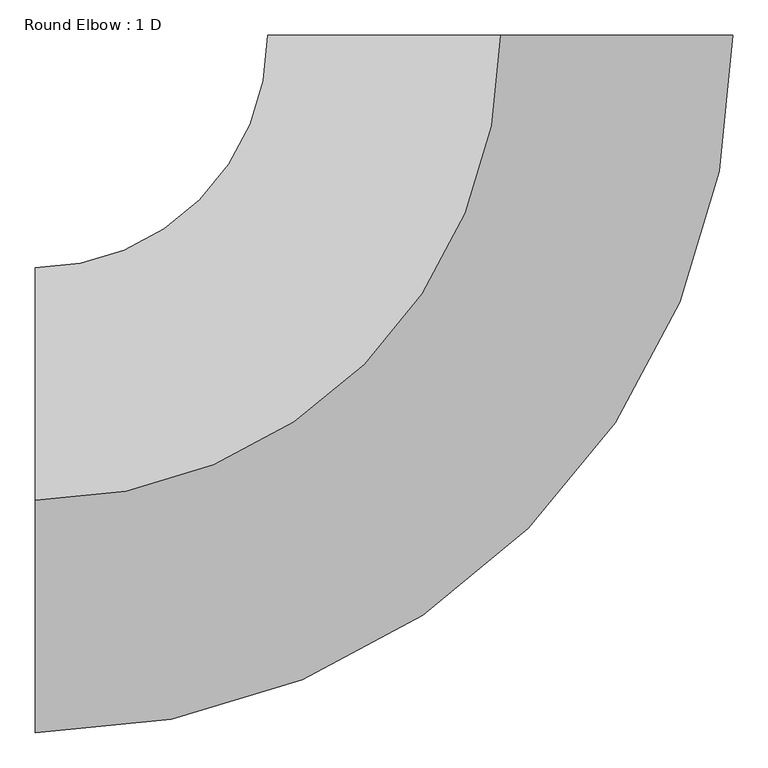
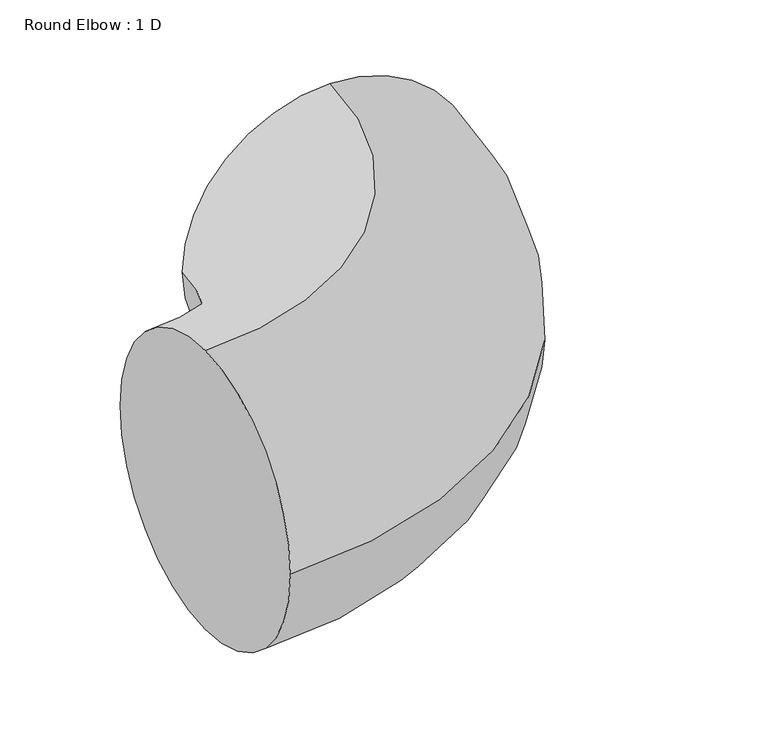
"""IFC4 building model written with IfcOpenShell, lengths in millimetres: duct fitting geometry, Round Elbow : 1 D."""

from ifc_helpers import new_model, si_unit, point, frame, origin, place, context, project, spatial, circle_curve, ellipse_curve, trimmed, source, transform, mapped, element, save
from ifc_brep_helpers import plane_surface, revolved_surface, advanced_brep


def round_elbow_1_d_a92ac68b(model_context):
    return source(origin(), model_context, "Body", "AdvancedBrep", [
        advanced_brep(
        [(-660.4, 0.0, 330.2), (-660.4, 330.2, 0.0), (-660.4, 0.0, -330.2), (-660.4, -330.2, 0.0), (0.0, 660.4, 330.2), (330.2, 660.4, 0.0), (0.0, 660.4, -330.2), (-330.2, 660.4, 0.0)],
        [
            (0, 1, circle_curve(frame((-660.4, 0.0, 0.0), z_axis=(-1.0, 0.0, 0.0), x_axis=(0.0, 1.0, 0.0)), 330.2)),
            (1, 2, circle_curve(frame((-660.4, 0.0, 0.0), z_axis=(-1.0, 0.0, 0.0), x_axis=(0.0, 1.0, 0.0)), 330.2)),
            (2, 3, circle_curve(frame((-660.4, 0.0, 0.0), z_axis=(-1.0, 0.0, 0.0), x_axis=(0.0, 1.0, 0.0)), 330.2)),
            (3, 0, circle_curve(frame((-660.4, 0.0, 0.0), z_axis=(-1.0, 0.0, 0.0), x_axis=(0.0, 1.0, 0.0)), 330.2)),
            (4, 5, circle_curve(frame((0.0, 660.4, 0.0), z_axis=(0.0, 1.0, 0.0), x_axis=(-1.0, 0.0, 0.0)), 330.2)),
            (5, 6, circle_curve(frame((0.0, 660.4, 0.0), z_axis=(0.0, 1.0, 0.0), x_axis=(-1.0, 0.0, 0.0)), 330.2)),
            (6, 7, circle_curve(frame((0.0, 660.4, 0.0), z_axis=(0.0, 1.0, 0.0), x_axis=(-1.0, 0.0, 0.0)), 330.2)),
            (7, 4, circle_curve(frame((0.0, 660.4, 0.0), z_axis=(0.0, 1.0, 0.0), x_axis=(-1.0, 0.0, 0.0)), 330.2)),
            (7, 1, circle_curve(frame((-660.4, 660.4, 0.0), z_axis=(0.0, 0.0, -1.0), x_axis=(0.0, -1.0, 0.0)), 330.2)),
            (0, 4, circle_curve(frame((-660.4, 660.4, 330.2), z_axis=(0.0, 0.0, 1.0), x_axis=(0.0, -1.0, 0.0)), 660.4)),
            (6, 2, circle_curve(frame((-660.4, 660.4, -330.2), z_axis=(0.0, 0.0, -1.0), x_axis=(0.0, -1.0, 0.0)), 660.4)),
            (5, 3, circle_curve(frame((-660.4, 660.4, 0.0), z_axis=(0.0, 0.0, -1.0), x_axis=(0.0, -1.0, 0.0)), 990.6)),
        ],
        [
            plane_surface(frame((-660.4, 0.0, 0.0), z_axis=(-1.0, 0.0, 0.0), x_axis=(0.0, 0.0, 1.0))),
            plane_surface(frame((0.0, 660.4, 0.0), z_axis=(0.0, 1.0, 0.0), x_axis=(0.0, 0.0, 1.0))),
            revolved_surface(trimmed(ellipse_curve(frame((-660.4, 0.0, 0.0), z_axis=(-1.0, 0.0, 0.0), x_axis=(0.0, 1.0, 0.0)), 330.2, 330.2), [point((-660.4, 0.0, 330.2))], [point((-660.4, 330.2, 0.0))], True, "CARTESIAN"), (-660.4, 660.4, 0.0), (0.0, 0.0, 1.0)),
            revolved_surface(trimmed(ellipse_curve(frame((-660.4, 0.0, 0.0), z_axis=(-1.0, 0.0, 0.0), x_axis=(0.0, 1.0, 0.0)), 330.2, 330.2), [point((-660.4, 330.2, 0.0))], [point((-660.4, 0.0, -330.2))], True, "CARTESIAN"), (-660.4, 660.4, 0.0), (0.0, 0.0, 1.0)),
            revolved_surface(trimmed(ellipse_curve(frame((-660.4, 0.0, 0.0), z_axis=(-1.0, 0.0, 0.0), x_axis=(0.0, 1.0, 0.0)), 330.2, 330.2), [point((-660.4, 0.0, -330.2))], [point((-660.4, -330.2, 0.0))], True, "CARTESIAN"), (-660.4, 660.4, 0.0), (0.0, 0.0, 1.0)),
            revolved_surface(trimmed(ellipse_curve(frame((-660.4, 0.0, 0.0), z_axis=(-1.0, 0.0, 0.0), x_axis=(0.0, 1.0, 0.0)), 330.2, 330.2), [point((-660.4, -330.2, 0.0))], [point((-660.4, 0.0, 330.2))], True, "CARTESIAN"), (-660.4, 660.4, 0.0), (0.0, 0.0, 1.0)),
        ],
        [
            (0, [[1, 2, 3, 4]]),
            (1, [[5, 6, 7, 8]]),
            (2, [[9, -1, 10, -8]]),
            (3, [[11, -2, -9, -7]]),
            (4, [[12, -3, -11, -6]]),
            (5, [[-10, -4, -12, -5]]),
        ],
    ),
    ])


if __name__ == "__main__":
    model = new_model("IFC4")
    model_context = context("Model", 3, world=origin())
    ifc_project = project(units=[si_unit("LENGTHUNIT", "METRE", prefix="MILLI")], contexts=[model_context])
    site = spatial("IfcSite", under=ifc_project)
    building = spatial("IfcBuilding", under=site)
    placement = place(None, origin())
    round_elbow_1_d_shape = round_elbow_1_d_a92ac68b(model_context)
    element("IfcDuctFitting", 1, ObjectType="Round Elbow : 1 D", at=placement, inside=building, context=model_context, shape_type="MappedRepresentation", body=[
        mapped(round_elbow_1_d_shape, transform((0.0, 0.0, 0.0), x_axis=(1.0, 0.0, 0.0), y_axis=(0.0, 1.0, 0.0), z_axis=(0.0, 0.0, 1.0))),
    ])
    save(model, "model.ifc")
